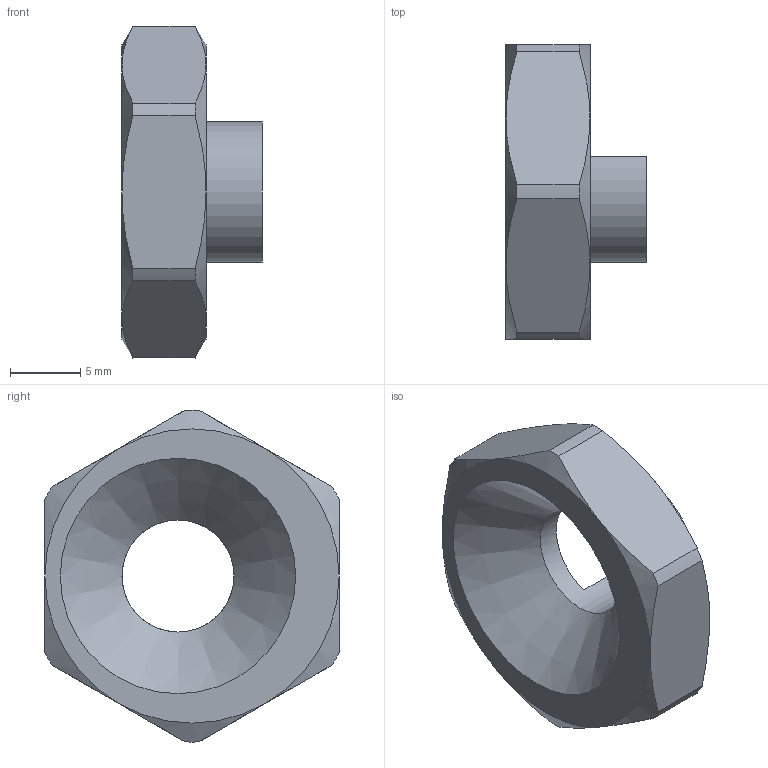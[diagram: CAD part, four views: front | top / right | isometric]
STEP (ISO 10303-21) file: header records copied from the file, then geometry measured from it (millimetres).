
FILE_DESCRIPTION(/* description */ ('STEP AP214'),/* implementation_level */ '2;1');
FILE_NAME(/* name */ 'Mounting Accessory GN 753.2-8-10-6-E-NI',/* time_stamp */ '2024-12-09T14:01:38+01:00',/* author */ ('License CC BY-ND 4.0'),/* organization */ ('CADENAS'),/* preprocessor_version */ 'ST-DEVELOPER v19.3',/* originating_system */ 'PARTsolutions',/* authorisation */ ' ');
FILE_SCHEMA (('AUTOMOTIVE_DESIGN {1 0 10303 214 3 1 1}'));
Length unit declared in the file: millimetre
Products named in the file (1): Mounting Accessory GN 753.2-8-10-6-E-NI
Bounding box: 10 x 21 x 23.7 mm (x, y, z)
Volume: 1738.2 mm3; surface area: 1318.9 mm2
Topology: 1 solids, 1 shells, 32 faces, 77 edges, 47 vertices
Faces by surface type: cone 13, plane 11, cylinder 8
Full cylindrical faces by diameter (mm): 8 x1
Entity records: 966 total; most frequent: CARTESIAN_POINT 225, ORIENTED_EDGE 148, DIRECTION 146, EDGE_CURVE 74, AXIS2_PLACEMENT_3D 63, VERTEX_POINT 46, EDGE_LOOP 36, FACE_BOUND 36
